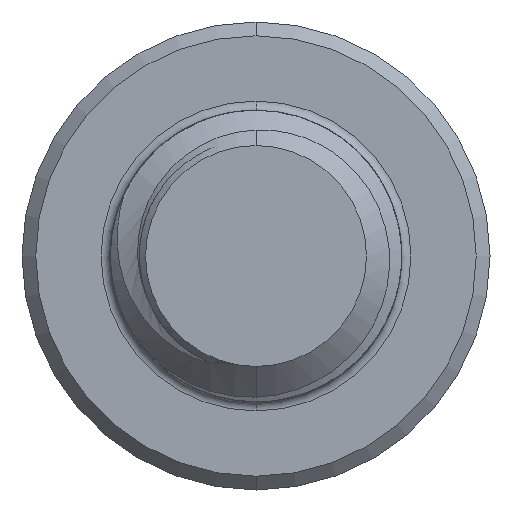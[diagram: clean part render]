
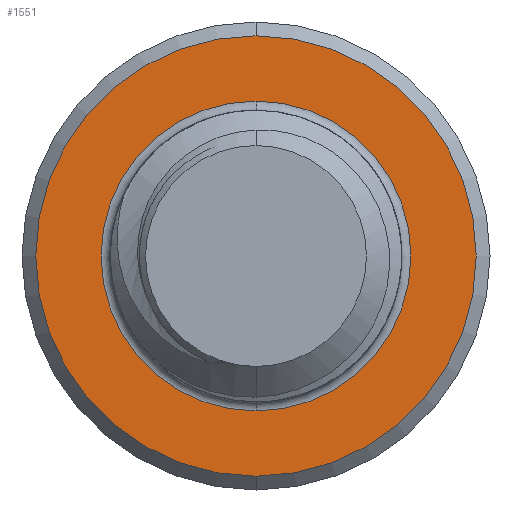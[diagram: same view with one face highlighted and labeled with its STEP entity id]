
A CAD part, front view. The second image highlights one B-rep face of the part: STEP entity #1551.
In plain terms, the highlighted planar face has unit normal (0, -1, 0).
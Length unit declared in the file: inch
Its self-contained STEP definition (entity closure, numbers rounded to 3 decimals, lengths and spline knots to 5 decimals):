
#345 = PLANE ( 'NONE',  #13513 ) ;
#539 = EDGE_LOOP ( 'NONE', ( #13683, #1917 ) ) ;
#833 = ORIENTED_EDGE ( 'NONE', *, *, #13768, .T. ) ;
#1349 = CARTESIAN_POINT ( 'NONE',  ( 0., 0., 0. ) ) ;
#1450 = CIRCLE ( 'NONE', #4431, 0.1435 ) ;
#1551 = ADVANCED_FACE ( 'NONE', ( #3435, #12344 ), #345, .F. ) ;
#1692 = AXIS2_PLACEMENT_3D ( 'NONE', #1349, #12061, #7790 ) ;
#1917 = ORIENTED_EDGE ( 'NONE', *, *, #11087, .T. ) ;
#2610 = CIRCLE ( 'NONE', #4449, 0.1435 ) ;
#2627 = CARTESIAN_POINT ( 'NONE',  ( 0., 0., 0. ) ) ;
#2871 = DIRECTION ( 'NONE',  ( 0., -1., 0. ) ) ;
#3435 = FACE_BOUND ( 'NONE', #10617, .T. ) ;
#3704 = DIRECTION ( 'NONE',  ( 0., 0., 1. ) ) ;
#4277 = EDGE_CURVE ( 'NONE', #8996, #10656, #1450, .T. ) ;
#4431 = AXIS2_PLACEMENT_3D ( 'NONE', #13409, #11118, #3704 ) ;
#4449 = AXIS2_PLACEMENT_3D ( 'NONE', #12441, #2871, #10435 ) ;
#5529 = CARTESIAN_POINT ( 'NONE',  ( 0., 0., 0. ) ) ;
#6094 = ORIENTED_EDGE ( 'NONE', *, *, #9159, .T. ) ;
#6759 = CARTESIAN_POINT ( 'NONE',  ( 0., 0., 0.101 ) ) ;
#7790 = DIRECTION ( 'NONE',  ( 0., 0., 1. ) ) ;
#7933 = DIRECTION ( 'NONE',  ( 0., 1., 0. ) ) ;
#8046 = CARTESIAN_POINT ( 'NONE',  ( 0., 0., -0.1435 ) ) ;
#8473 = VERTEX_POINT ( 'NONE', #6759 ) ;
#8821 = DIRECTION ( 'NONE',  ( 0., 1., 0. ) ) ;
#8996 = VERTEX_POINT ( 'NONE', #13420 ) ;
#9159 = EDGE_CURVE ( 'NONE', #9608, #8473, #10135, .T. ) ;
#9608 = VERTEX_POINT ( 'NONE', #10155 ) ;
#10135 = CIRCLE ( 'NONE', #1692, 0.101 ) ;
#10155 = CARTESIAN_POINT ( 'NONE',  ( 0., 0., -0.101 ) ) ;
#10435 = DIRECTION ( 'NONE',  ( 0., 0., 1. ) ) ;
#10617 = EDGE_LOOP ( 'NONE', ( #833, #6094 ) ) ;
#10656 = VERTEX_POINT ( 'NONE', #8046 ) ;
#11087 = EDGE_CURVE ( 'NONE', #10656, #8996, #2610, .T. ) ;
#11118 = DIRECTION ( 'NONE',  ( 0., -1., 0. ) ) ;
#11270 = DIRECTION ( 'NONE',  ( 0., 0., 1. ) ) ;
#11736 = AXIS2_PLACEMENT_3D ( 'NONE', #5529, #8821, #12023 ) ;
#12023 = DIRECTION ( 'NONE',  ( 0., 0., 1. ) ) ;
#12061 = DIRECTION ( 'NONE',  ( 0., 1., 0. ) ) ;
#12344 = FACE_OUTER_BOUND ( 'NONE', #539, .T. ) ;
#12441 = CARTESIAN_POINT ( 'NONE',  ( 0., 0., 0. ) ) ;
#13113 = CIRCLE ( 'NONE', #11736, 0.101 ) ;
#13409 = CARTESIAN_POINT ( 'NONE',  ( 0., 0., 0. ) ) ;
#13420 = CARTESIAN_POINT ( 'NONE',  ( 0., 0., 0.1435 ) ) ;
#13513 = AXIS2_PLACEMENT_3D ( 'NONE', #2627, #7933, #11270 ) ;
#13683 = ORIENTED_EDGE ( 'NONE', *, *, #4277, .T. ) ;
#13768 = EDGE_CURVE ( 'NONE', #8473, #9608, #13113, .T. ) ;
